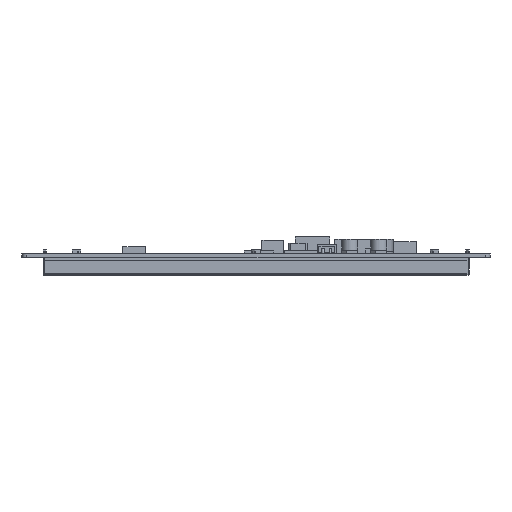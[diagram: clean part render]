
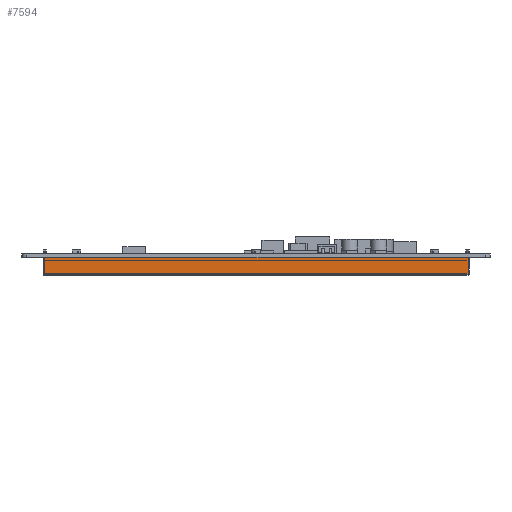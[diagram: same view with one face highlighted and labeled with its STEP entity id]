
A CAD part, left-side view. The second image highlights one B-rep face of the part: STEP entity #7594.
In plain terms, the highlighted planar face has unit normal (-1, 0, 0).
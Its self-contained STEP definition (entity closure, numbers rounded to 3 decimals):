
#7594=ADVANCED_FACE('',(#12101),#9889,.T.);
#9889=PLANE('',#43818);
#12101=FACE_OUTER_BOUND('',#14517,.T.);
#14517=EDGE_LOOP('',(#22905,#22906,#22907,#22908));
#22905=ORIENTED_EDGE('',*,*,#31809,.F.);
#22906=ORIENTED_EDGE('',*,*,#31810,.T.);
#22907=ORIENTED_EDGE('',*,*,#31811,.T.);
#22908=ORIENTED_EDGE('',*,*,#31812,.F.);
#27249=VERTEX_POINT('',#63052);
#27250=VERTEX_POINT('',#63053);
#27251=VERTEX_POINT('',#63055);
#27252=VERTEX_POINT('',#63057);
#31809=EDGE_CURVE('',#27249,#27250,#36575,.T.);
#31810=EDGE_CURVE('',#27249,#27251,#36576,.T.);
#31811=EDGE_CURVE('',#27251,#27252,#36577,.T.);
#31812=EDGE_CURVE('',#27250,#27252,#36578,.T.);
#36575=LINE('',#63051,#41163);
#36576=LINE('',#63054,#41164);
#36577=LINE('',#63056,#41165);
#36578=LINE('',#63058,#41166);
#41163=VECTOR('',#52324,1.);
#41164=VECTOR('',#52325,1.);
#41165=VECTOR('',#52326,1.);
#41166=VECTOR('',#52327,1.);
#43818=AXIS2_PLACEMENT_3D('',#63059,#52328,#52329);
#52324=DIRECTION('',(0.,0.,1.));
#52325=DIRECTION('',(0.,-1.,0.));
#52326=DIRECTION('',(0.,0.,1.));
#52327=DIRECTION('',(0.,-1.,0.));
#52328=DIRECTION('',(-1.,0.,0.));
#52329=DIRECTION('',(0.,-1.,0.));
#63051=CARTESIAN_POINT('',(-110.155,120.865,-8.8));
#63052=CARTESIAN_POINT('',(-110.155,120.865,-8.4));
#63053=CARTESIAN_POINT('',(-110.155,120.865,-1.6));
#63054=CARTESIAN_POINT('',(-110.155,-54.535,-8.4));
#63055=CARTESIAN_POINT('',(-110.155,-54.535,-8.4));
#63056=CARTESIAN_POINT('',(-110.155,-54.535,-8.8));
#63057=CARTESIAN_POINT('',(-110.155,-54.535,-1.6));
#63058=CARTESIAN_POINT('',(-110.155,120.865,-1.6));
#63059=CARTESIAN_POINT('',(-110.155,120.865,-8.8));
